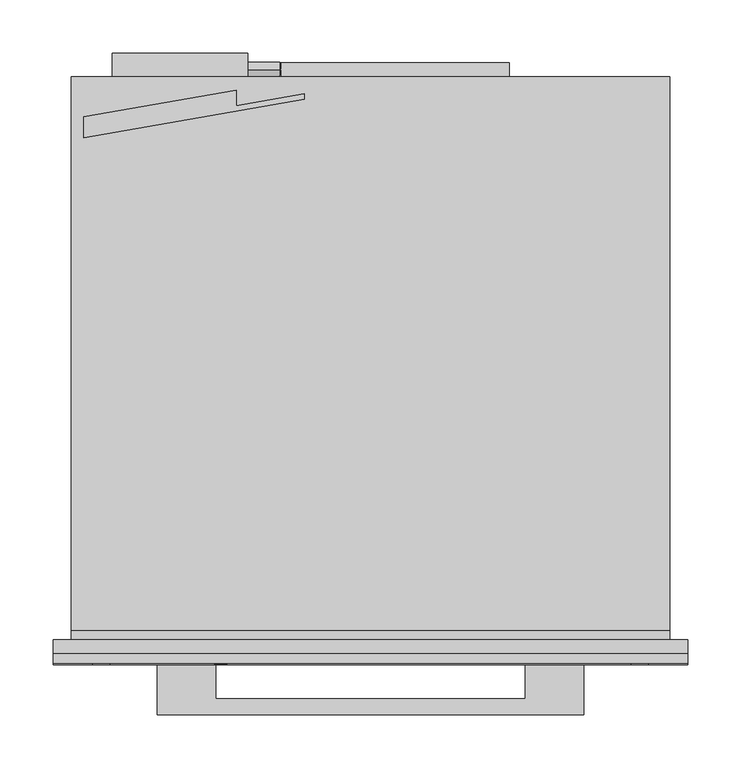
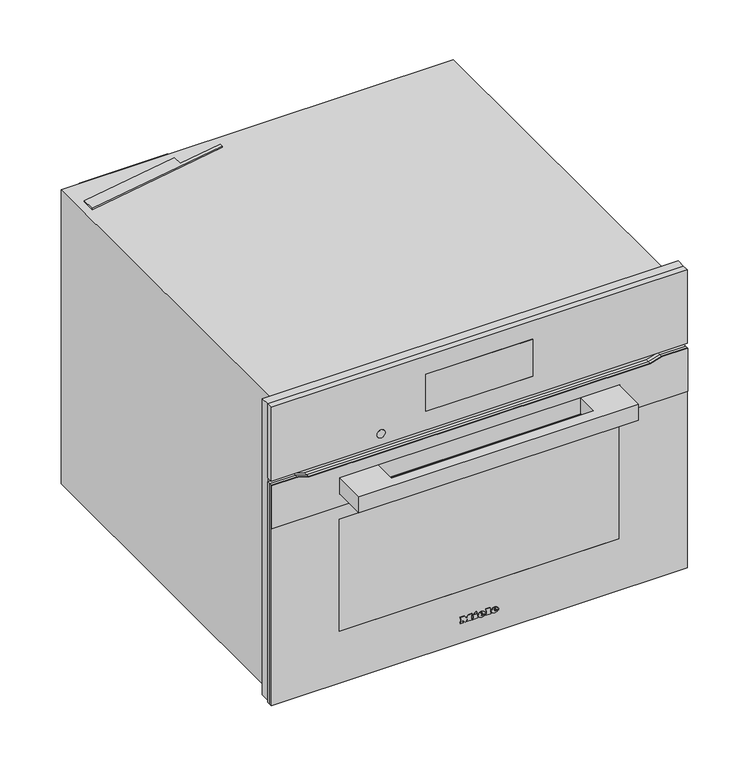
"""IFC4 building model written with IfcOpenShell, lengths in millimetres: proxy geometry, 11804640_USA_H7840BM_EDST-CLST : 22784046_USA_11804640_H7840BM_EDST-CLST."""

from ifc_helpers import new_model, si_unit, point, frame, frame_2d, origin, place, context, project, spatial, polyline, circle_curve, ellipse_curve, trimmed, segment, composite_curve, outline, extrude, faceted_brep, source, transform, mapped, element, save
from ifc_brep_helpers import plane_surface, cylinder_surface, revolved_surface, extruded_surface, advanced_brep


def specialty_equipment_f90ddcf8(model_context):
    return source(origin(), model_context, "Body", "SolidModel", [
        advanced_brep(
        [(21.28, -23.0, 36.133), (21.28, -23.0, 37.042), (27.301, -23.0, 37.042), (16.825, -23.0, 37.042), (19.3, -23.0, 34.0), (27.148, -23.0, 36.133), (24.43, -23.0, 36.133), (22.288, -23.0, 35.125), (21.28, -23.0, 38.194), (21.28, -23.0, 39.175), (22.819, -23.0, 39.175), (22.819, -23.0, 38.194), (21.28, -22.0, 36.133), (22.288, -22.0, 35.125), (24.43, -22.0, 36.133), (27.148, -22.0, 36.133), (19.3, -22.0, 34.0), (16.825, -22.0, 37.042), (27.301, -22.0, 37.042), (21.28, -22.0, 37.042), (21.28, -22.0, 38.194), (22.819, -22.0, 38.194), (22.819, -22.0, 39.175), (21.28, -22.0, 39.175)],
        [
            (0, 1),
            (1, 2),
            (2, 3, ellipse_curve(frame((22.063, -23.0, 37.042), z_axis=(0.0, -1.0, 0.0), x_axis=(-1.0, 0.0, 0.0)), 5.238, 4.329)),
            (3, 4, circle_curve(frame((20.3080491, -23.0, 37.348), z_axis=(0.0, -1.0, 0.0), x_axis=(0.0, 0.0, -1.0)), 3.4964649)),
            (4, 5, circle_curve(frame((21.9581428, -23.0, 39.724), z_axis=(0.0, -1.0, 0.0), x_axis=(0.0, 0.0, -1.0)), 6.3110933)),
            (5, 6),
            (6, 7, circle_curve(frame((22.7279412, -23.0, 36.97), z_axis=(0.0, 1.0, 0.0), x_axis=(0.0, 0.0, -1.0)), 1.896727)),
            (7, 0, circle_curve(frame((22.288, -23.0, 36.133), z_axis=(0.0, 1.0, 0.0), x_axis=(0.0, 0.0, -1.0)), 1.008)),
            (8, 9),
            (9, 10, circle_curve(frame((22.0495, -23.0, 39.175), z_axis=(0.0, 1.0, 0.0), x_axis=(0.0, 0.0, -1.0)), 0.7695)),
            (10, 11),
            (11, 8),
            (12, 13, circle_curve(frame((22.288, -22.0, 36.133), z_axis=(0.0, -1.0, 0.0), x_axis=(0.0, 0.0, -1.0)), 1.008)),
            (13, 14, circle_curve(frame((22.7279412, -22.0, 36.97), z_axis=(0.0, -1.0, 0.0), x_axis=(0.0, 0.0, -1.0)), 1.896727)),
            (14, 15),
            (15, 16, circle_curve(frame((21.9581428, -22.0, 39.724), z_axis=(0.0, 1.0, 0.0), x_axis=(0.0, 0.0, -1.0)), 6.3110933)),
            (16, 17, circle_curve(frame((20.3080491, -22.0, 37.348), z_axis=(0.0, 1.0, 0.0), x_axis=(0.0, 0.0, -1.0)), 3.4964649)),
            (17, 18, ellipse_curve(frame((22.063, -22.0, 37.042), z_axis=(0.0, 1.0, 0.0), x_axis=(-1.0, 0.0, 0.0)), 5.238, 4.329)),
            (18, 19),
            (19, 12),
            (20, 21),
            (21, 22),
            (22, 23, circle_curve(frame((22.0495, -22.0, 39.175), z_axis=(0.0, -1.0, 0.0), x_axis=(0.0, 0.0, -1.0)), 0.7695)),
            (23, 20),
            (0, 12),
            (19, 1),
            (18, 2),
            (5, 15),
            (14, 6),
            (17, 3),
            (13, 7),
            (16, 4),
            (8, 20),
            (23, 9),
            (22, 10),
            (21, 11),
        ],
        [
            plane_surface(frame((21.28, -23.0, 37.042), z_axis=(0.0, -1.0, 0.0), x_axis=(0.0, 0.0, 1.0))),
            plane_surface(frame((21.28, -22.0, 37.042), z_axis=(0.0, 1.0, 0.0), x_axis=(0.0, 0.0, -1.0))),
            plane_surface(frame((21.28, -23.0, 36.133), z_axis=(1.0, 0.0, 0.0), x_axis=(0.0, 1.0, 0.0))),
            plane_surface(frame((21.28, -23.0, 37.042), z_axis=(0.0, 0.0, -1.0), x_axis=(0.0, 1.0, 0.0))),
            plane_surface(frame((27.148, -23.0, 36.133), z_axis=(0.0, 0.0, 1.0), x_axis=(0.0, 1.0, 0.0))),
            extruded_surface(trimmed(ellipse_curve(frame((22.063, -21.0, 37.042), z_axis=(0.0, -1.0, 0.0), x_axis=(-1.0, 0.0, 0.0)), 5.238, 4.329), [point((27.301, -21.0, 37.042))], [point((16.825, -21.0, 37.042))], True, "CARTESIAN"), (0.0, -1.0, 0.0), 1.0),
            revolved_surface(polyline([(22.7279412, -22.0, 35.073273), (22.7279412, -23.0, 35.073273)]), (22.7279412, -22.0, 36.97), (0.0, 1.0, 0.0)),
            revolved_surface(polyline([(22.288, -22.0, 35.125), (22.288, -23.0, 35.125)]), (22.288, -22.0, 36.133), (0.0, 1.0, 0.0)),
            cylinder_surface(frame((20.3080491, -22.0, 37.348), z_axis=(0.0, -1.0, 0.0), x_axis=(0.0, 0.0, -1.0)), 3.4964649),
            cylinder_surface(frame((21.9581428, -22.0, 39.724), z_axis=(0.0, -1.0, 0.0), x_axis=(0.0, 0.0, -1.0)), 6.3110933),
            plane_surface(frame((21.28, -23.0, 38.194), z_axis=(1.0, 0.0, 0.0), x_axis=(0.0, 1.0, 0.0))),
            revolved_surface(polyline([(22.0495, -22.0, 38.405499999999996), (22.0495, -23.0, 38.405499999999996)]), (22.0495, -22.0, 39.175), (0.0, 1.0, 0.0)),
            plane_surface(frame((22.819, -23.0, 39.175), z_axis=(-1.0, 0.0, 0.0), x_axis=(0.0, 1.0, 0.0))),
            plane_surface(frame((22.819, -23.0, 38.194), z_axis=(0.0, 0.0, 1.0), x_axis=(0.0, 1.0, 0.0))),
        ],
        [
            (0, [[1, 2, 3, 4, 5, 6, 7, 8], [9, 10, 11, 12]]),
            (1, [[13, 14, 15, 16, 17, 18, 19, 20], [21, 22, 23, 24]]),
            (2, [[-1, 25, -20, 26]]),
            (3, [[-2, -26, -19, 27]]),
            (4, [[-6, 28, -15, 29]]),
            (5, [[-3, -27, -18, 30]]),
            (6, [[-7, -29, -14, 31]]),
            (7, [[-8, -31, -13, -25]]),
            (8, [[-4, -30, -17, 32]]),
            (9, [[-5, -32, -16, -28]]),
            (10, [[-9, 33, -24, 34]]),
            (11, [[-10, -34, -23, 35]]),
            (12, [[-11, -35, -22, 36]]),
            (13, [[-12, -36, -21, -33]]),
        ],
    ),
        advanced_brep(
        [(2.497, -23.0, 36.133), (2.497, -23.0, 37.042), (8.518, -23.0, 37.042), (-1.958, -23.0, 37.042), (0.517, -23.0, 34.0), (8.365, -23.0, 36.133), (5.647, -23.0, 36.133), (3.505, -23.0, 35.125), (2.497, -23.0, 38.194), (2.497, -23.0, 39.175), (4.036, -23.0, 39.175), (4.036, -23.0, 38.194), (2.497, -22.0, 36.133), (3.505, -22.0, 35.125), (5.647, -22.0, 36.133), (8.365, -22.0, 36.133), (0.517, -22.0, 34.0), (-1.958, -22.0, 37.042), (8.518, -22.0, 37.042), (2.497, -22.0, 37.042), (2.497, -22.0, 38.194), (4.036, -22.0, 38.194), (4.036, -22.0, 39.175), (2.497, -22.0, 39.175)],
        [
            (0, 1),
            (1, 2),
            (2, 3, ellipse_curve(frame((3.28, -23.0, 37.042), z_axis=(0.0, -1.0, 0.0), x_axis=(-1.0, 0.0, 0.0)), 5.238, 4.329)),
            (3, 4, circle_curve(frame((1.5250491, -23.0, 37.348), z_axis=(0.0, -1.0, 0.0), x_axis=(0.0, 0.0, -1.0)), 3.4964649)),
            (4, 5, circle_curve(frame((3.1751428, -23.0, 39.724), z_axis=(0.0, -1.0, 0.0), x_axis=(0.0, 0.0, -1.0)), 6.3110933)),
            (5, 6),
            (6, 7, circle_curve(frame((3.9449412, -23.0, 36.97), z_axis=(0.0, 1.0, 0.0), x_axis=(0.0, 0.0, -1.0)), 1.896727)),
            (7, 0, circle_curve(frame((3.505, -23.0, 36.133), z_axis=(0.0, 1.0, 0.0), x_axis=(0.0, 0.0, -1.0)), 1.008)),
            (8, 9),
            (9, 10, circle_curve(frame((3.2665, -23.0, 39.175), z_axis=(0.0, 1.0, 0.0), x_axis=(0.0, 0.0, -1.0)), 0.7695)),
            (10, 11),
            (11, 8),
            (12, 13, circle_curve(frame((3.505, -22.0, 36.133), z_axis=(0.0, -1.0, 0.0), x_axis=(0.0, 0.0, -1.0)), 1.008)),
            (13, 14, circle_curve(frame((3.9449412, -22.0, 36.97), z_axis=(0.0, -1.0, 0.0), x_axis=(0.0, 0.0, -1.0)), 1.896727)),
            (14, 15),
            (15, 16, circle_curve(frame((3.1751428, -22.0, 39.724), z_axis=(0.0, 1.0, 0.0), x_axis=(0.0, 0.0, -1.0)), 6.3110933)),
            (16, 17, circle_curve(frame((1.5250491, -22.0, 37.348), z_axis=(0.0, 1.0, 0.0), x_axis=(0.0, 0.0, -1.0)), 3.4964649)),
            (17, 18, ellipse_curve(frame((3.28, -22.0, 37.042), z_axis=(0.0, 1.0, 0.0), x_axis=(-1.0, 0.0, 0.0)), 5.238, 4.329)),
            (18, 19),
            (19, 12),
            (20, 21),
            (21, 22),
            (22, 23, circle_curve(frame((3.2665, -22.0, 39.175), z_axis=(0.0, -1.0, 0.0), x_axis=(0.0, 0.0, -1.0)), 0.7695)),
            (23, 20),
            (0, 12),
            (19, 1),
            (18, 2),
            (5, 15),
            (14, 6),
            (17, 3),
            (13, 7),
            (16, 4),
            (8, 20),
            (23, 9),
            (22, 10),
            (21, 11),
        ],
        [
            plane_surface(frame((2.497, -23.0, 37.042), z_axis=(0.0, -1.0, 0.0), x_axis=(0.0, 0.0, 1.0))),
            plane_surface(frame((2.497, -22.0, 37.042), z_axis=(0.0, 1.0, 0.0), x_axis=(0.0, 0.0, -1.0))),
            plane_surface(frame((2.497, -23.0, 36.133), z_axis=(1.0, 0.0, 0.0), x_axis=(0.0, 1.0, 0.0))),
            plane_surface(frame((2.497, -23.0, 37.042), z_axis=(0.0, 0.0, -1.0), x_axis=(0.0, 1.0, 0.0))),
            plane_surface(frame((8.365, -23.0, 36.133), z_axis=(0.0, 0.0, 1.0), x_axis=(0.0, 1.0, 0.0))),
            extruded_surface(trimmed(ellipse_curve(frame((3.28, -21.0, 37.042), z_axis=(0.0, -1.0, 0.0), x_axis=(-1.0, 0.0, 0.0)), 5.238, 4.329), [point((8.518, -21.0, 37.042))], [point((-1.958, -21.0, 37.042))], True, "CARTESIAN"), (0.0, -1.0, 0.0), 1.0),
            revolved_surface(polyline([(3.9449412, -22.0, 35.073273), (3.9449412, -23.0, 35.073273)]), (3.9449412, -22.0, 36.97), (0.0, 1.0, 0.0)),
            revolved_surface(polyline([(3.505, -22.0, 35.125), (3.505, -23.0, 35.125)]), (3.505, -22.0, 36.133), (0.0, 1.0, 0.0)),
            cylinder_surface(frame((1.5250491, -22.0, 37.348), z_axis=(0.0, -1.0, 0.0), x_axis=(0.0, 0.0, -1.0)), 3.4964649),
            cylinder_surface(frame((3.1751428, -22.0, 39.724), z_axis=(0.0, -1.0, 0.0), x_axis=(0.0, 0.0, -1.0)), 6.3110933),
            plane_surface(frame((2.497, -23.0, 38.194), z_axis=(1.0, 0.0, 0.0), x_axis=(0.0, 1.0, 0.0))),
            revolved_surface(polyline([(3.2665, -22.0, 38.405499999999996), (3.2665, -23.0, 38.405499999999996)]), (3.2665, -22.0, 39.175), (0.0, 1.0, 0.0)),
            plane_surface(frame((4.036, -23.0, 39.175), z_axis=(-1.0, 0.0, 0.0), x_axis=(0.0, 1.0, 0.0))),
            plane_surface(frame((4.036, -23.0, 38.194), z_axis=(0.0, 0.0, 1.0), x_axis=(0.0, 1.0, 0.0))),
        ],
        [
            (0, [[1, 2, 3, 4, 5, 6, 7, 8], [9, 10, 11, 12]]),
            (1, [[13, 14, 15, 16, 17, 18, 19, 20], [21, 22, 23, 24]]),
            (2, [[-1, 25, -20, 26]]),
            (3, [[-2, -26, -19, 27]]),
            (4, [[-6, 28, -15, 29]]),
            (5, [[-3, -27, -18, 30]]),
            (6, [[-7, -29, -14, 31]]),
            (7, [[-8, -31, -13, -25]]),
            (8, [[-4, -30, -17, 32]]),
            (9, [[-5, -32, -16, -28]]),
            (10, [[-9, 33, -24, 34]]),
            (11, [[-10, -34, -23, 35]]),
            (12, [[-11, -35, -22, 36]]),
            (13, [[-12, -36, -21, -33]]),
        ],
    ),
        extrude(outline(polyline([(42.469, -7.34), (41.011, -6.656), (42.433, -3.605), (43.891, -4.28), (42.469, -7.34)])), frame((0.0, -23.0, 0.0), z_axis=(0.0, 1.0, 0.0), x_axis=(0.0, 0.0, 1.0)), (0.0, 0.0, 1.0), 1.0),
        extrude(outline(polyline([(40.813, -9.563), (39.202, -9.563), (39.202, -8.492), (35.512, -8.492), (35.512, -9.563), (34.0, -9.563), (34.0, -2.462), (35.512, -2.462), (35.512, -3.506), (40.813, -3.506), (40.813, -9.563)])), frame((0.0, -23.0, 0.0), z_axis=(0.0, 1.0, 0.0), x_axis=(0.0, 0.0, 1.0)), (0.0, 0.0, 1.0), 1.0),
        extrude(outline(polyline([(41.533, 9.022), (41.533, 10.102), (35.512, 10.102), (35.512, 9.022), (34.0, 9.022), (34.0, 16.321), (35.512, 16.321), (35.512, 15.214), (43.0, 15.214), (43.0, 9.022), (41.533, 9.022)])), frame((0.0, -23.0, 0.0), z_axis=(0.0, 1.0, 0.0), x_axis=(0.0, 0.0, 1.0)), (0.0, 0.0, 1.0), 1.0),
        extrude(outline(polyline([(41.533, -27.5), (41.533, -26.411), (35.512, -26.411), (35.512, -27.5), (34.0, -27.5), (34.0, -23.54), (35.512, -23.54), (35.512, -24.62), (39.3341247, -24.62), (34.0, -20.597), (39.4402223, -16.556), (35.512, -16.556), (35.512, -17.663), (34.0, -17.663), (34.0, -10.481), (35.512, -10.481), (35.512, -11.624), (41.533, -11.624), (41.533, -10.481), (43.0, -10.481), (43.0, -15.962), (39.625, -18.59), (43.0, -21.227), (43.0, -27.5), (41.533, -27.5)])), frame((0.0, -23.0, 0.0), z_axis=(0.0, 1.0, 0.0), x_axis=(0.0, 0.0, 1.0)), (0.0, 0.0, 1.0), 1.0),
        extrude(outline(polyline([(-200.0, -70.3), (-200.0, -22.0), (-145.0, -22.0), (-145.0, -55.3), (145.0, -55.3), (145.0, -22.0), (200.0, -22.0), (200.0, -70.3), (-200.0, -70.3)])), frame((0.0, 0.0, 291.0), z_axis=(0.0, 0.0, 1.0), x_axis=(1.0, 0.0, 0.0)), (0.0, 0.0, 1.0), 24.0),
        extrude(outline(polyline([(337.0, -297.5), (4.0, -297.5), (4.0, 297.5), (337.0, 297.5), (337.0, 260.3542631), (332.0, 244.0), (332.0, -244.0), (337.0, -260.3542631), (337.0, -297.5)]), holes=[polyline([(252.0, 200.0), (82.0, 200.0), (82.0, -200.0), (252.0, -200.0), (252.0, 200.0)])]), frame((0.0, -22.0, 0.0), z_axis=(0.0, 1.0, 0.0), x_axis=(0.0, 0.0, 1.0)), (0.0, 0.0, 1.0), 4.0),
        extrude(outline(polyline([(337.0, -297.5), (272.0, -297.5), (272.0, 297.5), (337.0, 297.5), (337.0, 260.3542631), (332.0, 244.0), (332.0, -244.0), (337.0, -260.3542631), (337.0, -297.5)]), holes=[polyline([(315.5, -200.5), (315.5, 200.5), (290.5, 200.5), (290.5, -200.5), (315.5, -200.5)])]), frame((0.0, -23.3, 0.0), z_axis=(0.0, 1.0, 0.0), x_axis=(0.0, 0.0, 1.0)), (0.0, 0.0, 1.0), 1.3),
        extrude(outline(polyline([(337.0, -297.5), (4.0, -297.5), (4.0, 297.5), (337.0, 297.5), (337.0, 260.3542631), (332.0, 244.0), (332.0, -244.0), (337.0, -260.3542631), (337.0, -297.5)])), frame((0.0, -18.0, 0.0), z_axis=(0.0, 1.0, 0.0), x_axis=(0.0, 0.0, 1.0)), (0.0, 0.0, 1.0), 5.0),
        extrude(outline(polyline([(-200.0, -18.0), (200.0, -18.0), (200.0, -22.0), (-200.0, -22.0), (-200.0, -18.0)])), frame((0.0, 0.0, 82.0), z_axis=(0.0, 0.0, 1.0), x_axis=(1.0, 0.0, 0.0)), (0.0, 0.0, 1.0), 170.0),
        extrude(outline(polyline([(-76.5, -21.0), (76.5, -21.0), (76.5, -22.0), (-76.5, -22.0), (-76.5, -21.0)])), frame((0.0, 0.0, 371.5), z_axis=(0.0, 0.0, 1.0), x_axis=(1.0, 0.0, 0.0)), (0.0, 0.0, 1.0), 56.0),
        faceted_brep([(297.5, -22.0, 455.0), (-297.5, -22.0, 455.0), (-297.5, -22.0, 343.5), (297.5, -22.0, 343.5), (76.5, -22.0, 427.5), (76.5, -22.0, 371.5), (-76.5, -22.0, 371.5), (-76.5, -22.0, 427.5), (297.5, -13.0, 455.0), (297.5, -13.0, 343.5), (-297.5, -13.0, 343.5), (-297.5, -13.0, 455.0), (76.5, -21.0, 427.5), (-76.5, -21.0, 427.5), (-76.5, -21.0, 371.5), (76.5, -21.0, 371.5)], [[[0, 1, 2, 3], [4, 5, 6, 7]], [[8, 9, 10, 11]], [[1, 0, 8, 11]], [[2, 1, 11, 10]], [[3, 2, 10, 9]], [[0, 3, 9, 8]], [[12, 13, 14, 15]], [[12, 15, 5, 4]], [[15, 14, 6, 5]], [[14, 13, 7, 6]], [[13, 12, 4, 7]]]),
        extrude(outline(composite_curve([segment(trimmed(circle_curve(frame_2d((360.5, -140.5745637)), 6.0), [point((360.5, -146.5745637))], [point((360.5, -134.5745637))], False, "CARTESIAN"), True, "CONTINUOUS"), segment(trimmed(circle_curve(frame_2d((360.5, -140.5745637)), 6.0), [point((360.5, -134.5745637))], [point((360.5, -146.5745637))], False, "CARTESIAN"), True, "CONTINUOUS")], self_intersect=False)), frame((0.0, -22.5, 0.0), z_axis=(0.0, 1.0, 0.0), x_axis=(0.0, 0.0, 1.0)), (0.0, 0.0, 1.0), 1.0),
        extrude(outline(polyline([(-269.0, 490.2851942), (-126.0, 515.1547594), (-126.0, 500.9446163), (-62.0, 512.0750511), (-62.0, 507.0), (-269.0, 471.0), (-269.0, 490.2851942)])), frame((0.0, 0.0, 445.0), z_axis=(0.0, 0.0, 1.0), x_axis=(1.0, 0.0, 0.0)), (0.0, 0.0, 1.0), 2.0),
        extrude(outline(polyline([(528.134837, 358.3256163), (533.9911721, 358.3256163), (533.9911721, 357.3256163), (529.134837, 357.3256163), (529.134837, 353.8256163), (532.0849866, 353.8256163), (532.0849866, 352.8256163), (529.134837, 352.8256163), (529.134837, 349.3256163), (533.9911721, 349.3256163), (533.9911721, 348.3256163), (528.134837, 348.3256163), (528.134837, 358.3256163)])), frame((-85.0, 0.0, 0.0), z_axis=(1.0, 0.0, 0.0), x_axis=(0.0, 1.0, 0.0)), (0.0, 0.0, 1.0), 1.0),
        extrude(outline(polyline([(535.4911721, 348.3256163), (535.4911721, 358.3256163), (536.5959622, 358.3256163), (536.5959622, 349.3256163), (540.4911721, 349.3256163), (540.4911721, 348.3256163), (535.4911721, 348.3256163)])), frame((-85.0, 0.0, 0.0), z_axis=(1.0, 0.0, 0.0), x_axis=(0.0, 1.0, 0.0)), (0.0, 0.0, 1.0), 1.0),
        extrude(outline(composite_curve([segment(trimmed(circle_curve(frame_2d((534.0, 353.0)), 7.5), [point((534.0, 345.5))], [point((534.0, 360.5))], False, "CARTESIAN"), True, "CONTINUOUS"), segment(trimmed(circle_curve(frame_2d((534.0, 353.0)), 7.5), [point((534.0, 360.5))], [point((534.0, 345.5))], False, "CARTESIAN"), True, "CONTINUOUS")], self_intersect=False)), frame((-115.0, 0.0, 0.0), z_axis=(1.0, 0.0, 0.0), x_axis=(0.0, 1.0, 0.0)), (0.0, 0.0, 1.0), 30.0),
        extrude(outline(polyline([(-115.0, 528.0), (-242.0, 528.0), (-242.0, 550.0), (-115.0, 550.0), (-115.0, 528.0)])), frame((0.0, 0.0, 325.0), z_axis=(0.0, 0.0, 1.0), x_axis=(1.0, 0.0, 0.0)), (0.0, 0.0, 1.0), 103.0),
        faceted_brep([(272.5, 17.0, 344.0), (-272.5, 17.0, 344.0), (-272.5, 17.0, 7.0), (272.5, 17.0, 7.0), (-230.0, 17.0, 270.0), (230.0, 17.0, 270.0), (230.0, 17.0, 60.0), (-230.0, 17.0, 60.0), (272.5, 0.0, 344.0), (-272.5, 0.0, 344.0), (-272.5, 0.0, 7.0), (272.5, 0.0, 7.0), (280.5, 0.0, 0.0), (280.5, 528.0, 0.0), (280.5, 528.0, 445.0), (280.5, 9.0, 445.0), (280.5, 9.0, 440.0), (280.5, 0.0, 440.0), (-280.5, 9.0, 445.0), (-280.5, 528.0, 445.0), (-280.5, 528.0, 0.0), (-280.5, 0.0, 0.0), (-280.5, 0.0, 440.0), (-280.5, 9.0, 440.0), (230.0, 412.0, 270.0), (-230.0, 412.0, 270.0), (-230.0, 412.0, 60.0), (230.0, 412.0, 60.0)], [[[0, 1, 2, 3], [4, 5, 6, 7]], [[1, 0, 8, 9]], [[2, 1, 9, 10]], [[0, 3, 11, 8]], [[12, 13, 14, 15, 16, 17]], [[18, 19, 20, 21, 22, 23]], [[13, 12, 21, 20]], [[14, 13, 20, 19]], [[15, 14, 19, 18]], [[21, 12, 17, 22], [9, 8, 11, 10]], [[24, 25, 26, 27]], [[25, 24, 5, 4]], [[26, 25, 4, 7]], [[27, 26, 7, 6]], [[24, 27, 6, 5]], [[3, 2, 10, 11]], [[16, 23, 22, 17]], [[23, 16, 15, 18]]]),
        extrude(outline(polyline([(130.0, 528.0), (-130.0, 528.0), (-130.0, 541.0), (130.0, 541.0), (130.0, 528.0)])), frame((0.0, 0.0, 36.0), z_axis=(0.0, 0.0, 1.0), x_axis=(1.0, 0.0, 0.0)), (0.0, 0.0, 1.0), 260.0),
        extrude(outline(polyline([(7.0, 297.5), (455.0, 297.5), (455.0, -297.5), (7.0, -297.5), (7.0, -272.5), (344.0, -272.5), (344.0, 272.5), (7.0, 272.5), (7.0, 297.5)])), frame((0.0, -13.0, 0.0), z_axis=(0.0, 1.0, 0.0), x_axis=(0.0, 0.0, 1.0)), (0.0, 0.0, 1.0), 13.0),
    ])


if __name__ == "__main__":
    model = new_model("IFC4")
    model_context = context("Model", 3, world=origin())
    ifc_project = project(units=[si_unit("LENGTHUNIT", "METRE", prefix="MILLI")], contexts=[model_context])
    site = spatial("IfcSite", under=ifc_project)
    building = spatial("IfcBuilding", under=site)
    placement = place(None, origin())
    specialty_equipment_shape = specialty_equipment_f90ddcf8(model_context)
    element("IfcBuildingElementProxy", 1, Name="11804640_USA_H7840BM_EDST-CLST : 22784046_USA_11804640_H7840BM_EDST-CLST", ObjectType="11804640_USA_H7840BM_EDST-CLST : 22784046_USA_11804640_H7840BM_EDST-CLST", at=placement, inside=building, context=model_context, shape_type="MappedRepresentation", body=[
        mapped(specialty_equipment_shape, transform((0.0, 0.0, 0.0), x_axis=(1.0, 0.0, 0.0), y_axis=(0.0, 1.0, 0.0), z_axis=(0.0, 0.0, 1.0))),
    ])
    save(model, "model.ifc")
